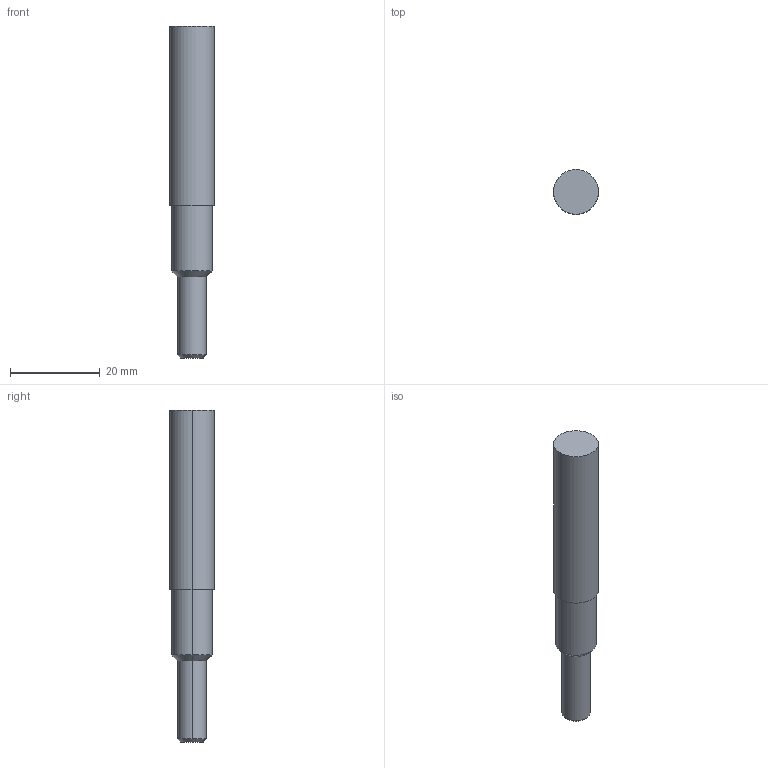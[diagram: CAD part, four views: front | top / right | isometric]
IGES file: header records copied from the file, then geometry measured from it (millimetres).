
Start section: 3D InterOp IGES (v. 2020 1.0.1), Spatial Corp. Copyright (c) 1999-2017.
Global section: file name: WZG17123_8.igs; native system: Spatial Corp.; preprocessor: 3D InterOp GENERIC/IGES 3.0; author: Noname; organization: Noname; date: 20201007.094621; units: metre
Bounding box: 10 x 10 x 74 mm (x, y, z)
Surface area: 2194.9 mm2 (no closed solid volume)
Topology: 0 solids, 0 shells, 13 faces, 48 edges, 48 vertices
Faces by surface type: revolution 10, extrusion 3
